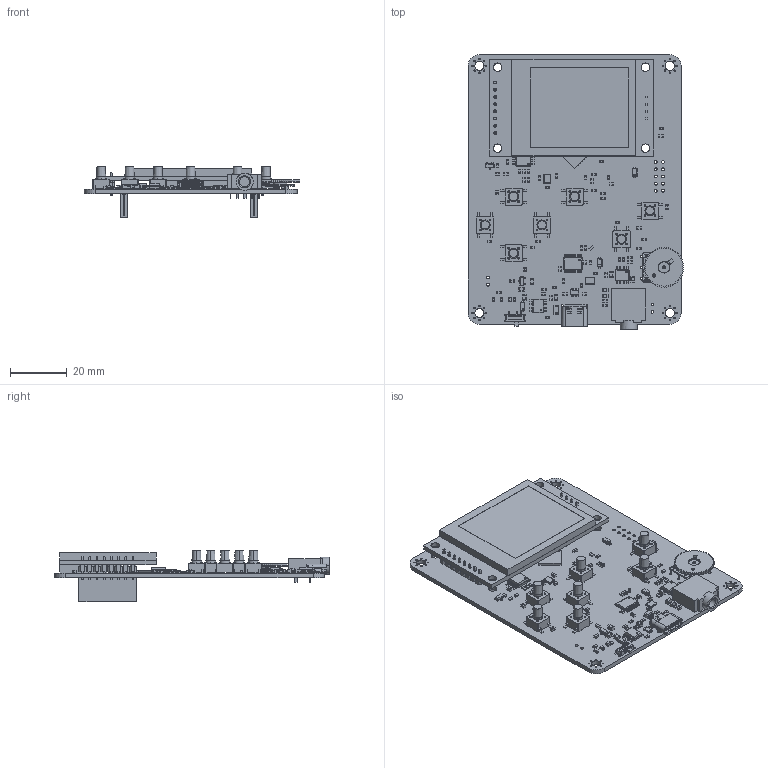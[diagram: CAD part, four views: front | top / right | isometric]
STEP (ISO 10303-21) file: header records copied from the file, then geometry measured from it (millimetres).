
FILE_DESCRIPTION (( 'STEP AP214' ), '1' );
FILE_NAME ('栖闉罻 珫.STEP', '2026-03-27T10:29:55', ( '' ), ( '' ), 'SwSTEP 2.0', 'SolidWorks 2025', '' );
FILE_SCHEMA (( 'AUTOMOTIVE_DESIGN' ));
Length unit declared in the file: millimetre
Products named in the file (9): Движок переключателя; Сборка ПП; PLS-4; CMUCF661030E; User Library-R1001N12B1; Console_REV2; Модель дисплея 1,77; PLS-8; PBS-8
Assembly tree (9 placements, depth 2):
  Сборка ПП
    Console_REV2
    PBS-8  x2
    User Library-R1001N12B1
    Модель дисплея 1,77
    PLS-8
    PLS-4
    Движок переключателя
    CMUCF661030E
Bounding box: 75.96 x 96.8 x 18.1 mm (x, y, z)
Volume: 22888.8 mm3; surface area: 27138 mm2
Topology: 134 solids, 134 shells, 7705 faces, 20567 edges, 13336 vertices
Faces by surface type: plane 5092, cylinder 2285, torus 178, bspline 86, cone 54, sphere 10
Entity records: 292731 total; most frequent: CARTESIAN_POINT 43989, ORIENTED_EDGE 38682, DIRECTION 38192, EDGE_CURVE 19341, LINE 14280, VECTOR 14280, VERTEX_POINT 12578, AXIS2_PLACEMENT_3D 11956
